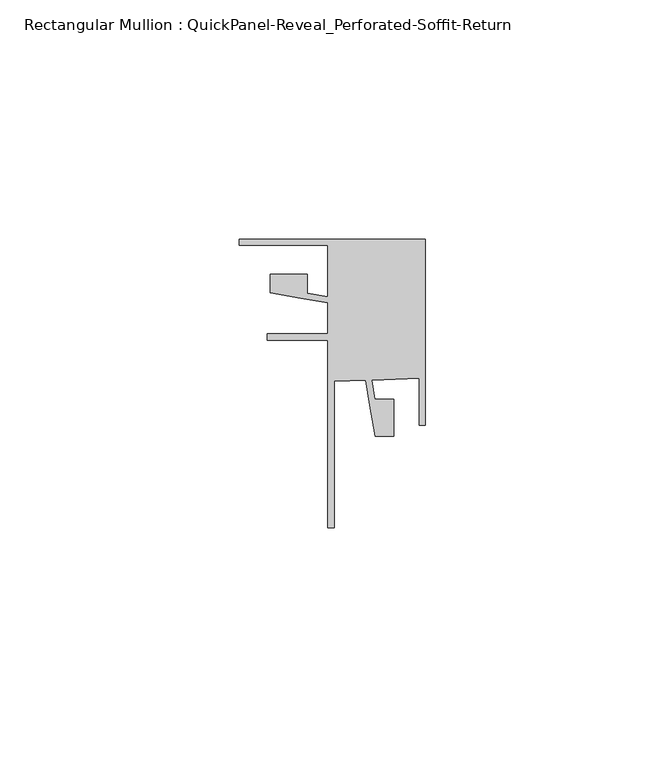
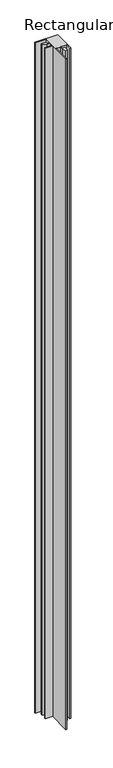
"""IFC4 building model written with IfcOpenShell, lengths in millimetres: member geometry, Rectangular Mullion : QuickPanel-Reveal_Perforated-Soffit-Return."""

from ifc_helpers import new_model, si_unit, frame, origin, place, context, project, spatial, polyline, outline, extrude, source, transform, mapped, element, save


def rectangular_mullion_quickpanel_reveal_perforated_soffit_d645d22b(model_context):
    return source(origin(), model_context, "Body", "SweptSolid", [
        extrude(outline(polyline([(-20.4159564, -15.6393221), (-20.4159564, -9.1993183), (-26.0600415, -8.2317412), (-32.4953741, -7.128519), (-32.4953741, -3.2832401), (-24.750601, -3.2832401), (-24.750601, -7.167697), (-20.4159564, -7.910794), (-20.4159564, 2.8597748), (-38.9344531, 2.8597748), (-38.9344531, 4.0867715), (0.0, 4.0867715), (0.0, -34.849197), (-1.2499975, -34.849197), (-1.2499975, -25.025705), (-11.2358029, -25.374417), (-10.553369, -29.355201), (-6.668912, -29.355201), (-6.668912, -37.0999741), (-10.5141909, -37.0999741), (-11.6174132, -30.6646414), (-12.5166593, -25.4191455), (-19.0159619, -25.6461061), (-19.0159619, -56.2382285), (-20.4159564, -56.2382285), (-20.4159564, -17.0393193), (-33.115931, -17.0393193), (-33.115931, -15.6393221), (-20.4159564, -15.6393221)])), frame((0.0, 0.0, -1219.2), z_axis=(0.0, 0.0, 1.0), x_axis=(1.0, 0.0, 0.0)), (0.0, 0.0, 1.0), 1219.2),
    ])


if __name__ == "__main__":
    model = new_model("IFC4")
    model_context = context("Model", 3, world=origin())
    ifc_project = project(units=[si_unit("LENGTHUNIT", "METRE", prefix="MILLI")], contexts=[model_context])
    site = spatial("IfcSite", under=ifc_project)
    building = spatial("IfcBuilding", under=site)
    placement = place(None, origin())
    rectangular_mullion_quickpanel_reveal_perforated_soffit_shape = rectangular_mullion_quickpanel_reveal_perforated_soffit_d645d22b(model_context)
    element("IfcMember", 1, ObjectType="Rectangular Mullion : QuickPanel-Reveal_Perforated-Soffit-Return", at=placement, inside=building, context=model_context, shape_type="MappedRepresentation", body=[
        mapped(rectangular_mullion_quickpanel_reveal_perforated_soffit_shape, transform((0.0, 0.0, 0.0), x_axis=(1.0, 0.0, 0.0), y_axis=(0.0, 1.0, 0.0), z_axis=(0.0, 0.0, 1.0))),
    ])
    save(model, "model.ifc")
